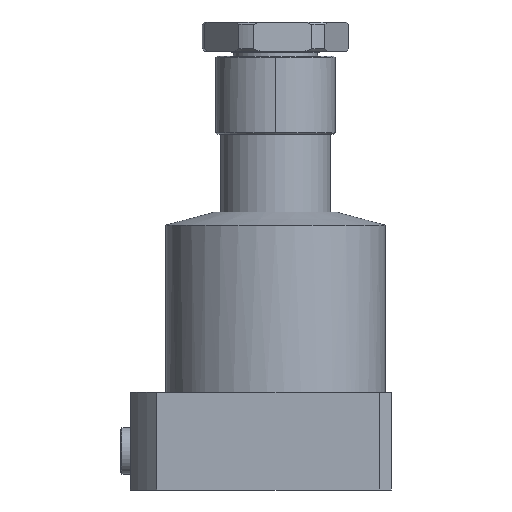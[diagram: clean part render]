
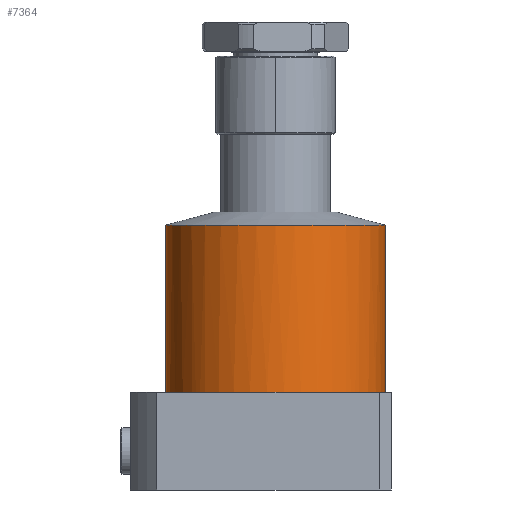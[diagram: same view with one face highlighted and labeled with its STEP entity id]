
A CAD part, front view. The second image highlights one B-rep face of the part: STEP entity #7364.
In plain terms, the highlighted cylindrical face has radius 45 mm (diameter 90 mm), a partial arc.
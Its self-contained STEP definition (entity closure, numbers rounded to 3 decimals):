
#500 = EDGE_CURVE ( 'NONE', #3720, #3303, #15677, .T. ) ;
#531 = ORIENTED_EDGE ( 'NONE', *, *, #15286, .T. ) ;
#578 = CIRCLE ( 'NONE', #17407, 45. ) ;
#1398 = DIRECTION ( 'NONE',  ( -1., 0., 0. ) ) ;
#2283 = VERTEX_POINT ( 'NONE', #16865 ) ;
#2360 = CARTESIAN_POINT ( 'NONE',  ( 0., 0., 40. ) ) ;
#2472 = EDGE_CURVE ( 'NONE', #3303, #3917, #7684, .T. ) ;
#3303 = VERTEX_POINT ( 'NONE', #14108 ) ;
#3616 = DIRECTION ( 'NONE',  ( 0., 0., -1. ) ) ;
#3720 = VERTEX_POINT ( 'NONE', #7086 ) ;
#3768 = DIRECTION ( 'NONE',  ( -1., 0., 0. ) ) ;
#3775 = EDGE_LOOP ( 'NONE', ( #9704, #5556, #531, #5861, #15189, #13859, #8111, #5908 ) ) ;
#3821 = CIRCLE ( 'NONE', #17571, 45. ) ;
#3917 = VERTEX_POINT ( 'NONE', #4485 ) ;
#4485 = CARTESIAN_POINT ( 'NONE',  ( 29.069, -34.351, 40. ) ) ;
#4795 = CARTESIAN_POINT ( 'NONE',  ( -29.069, -34.351, 40. ) ) ;
#5009 = CYLINDRICAL_SURFACE ( 'NONE', #12800, 45. ) ;
#5347 = DIRECTION ( 'NONE',  ( 0., 0., -1. ) ) ;
#5476 = FACE_OUTER_BOUND ( 'NONE', #3775, .T. ) ;
#5540 = CARTESIAN_POINT ( 'NONE',  ( 45., 0., 114. ) ) ;
#5556 = ORIENTED_EDGE ( 'NONE', *, *, #17160, .T. ) ;
#5861 = ORIENTED_EDGE ( 'NONE', *, *, #10608, .F. ) ;
#5908 = ORIENTED_EDGE ( 'NONE', *, *, #500, .F. ) ;
#5917 = CARTESIAN_POINT ( 'NONE',  ( -45., 0., 108.641 ) ) ;
#6001 = DIRECTION ( 'NONE',  ( 0., 0., -1. ) ) ;
#6586 = DIRECTION ( 'NONE',  ( 0., 0., -1. ) ) ;
#6845 = CARTESIAN_POINT ( 'NONE',  ( 0., 0., 108.641 ) ) ;
#6925 = LINE ( 'NONE', #12326, #10201 ) ;
#7086 = CARTESIAN_POINT ( 'NONE',  ( 45., 0., 40. ) ) ;
#7364 = ADVANCED_FACE ( 'NONE', ( #5476 ), #5009, .T. ) ;
#7402 = CARTESIAN_POINT ( 'NONE',  ( 0., 0., 114. ) ) ;
#7582 = EDGE_CURVE ( 'NONE', #10312, #8358, #10288, .T. ) ;
#7684 = CIRCLE ( 'NONE', #17379, 45. ) ;
#8111 = ORIENTED_EDGE ( 'NONE', *, *, #2472, .F. ) ;
#8243 = DIRECTION ( 'NONE',  ( -1., 0., 0. ) ) ;
#8358 = VERTEX_POINT ( 'NONE', #16889 ) ;
#9039 = EDGE_CURVE ( 'NONE', #3917, #10312, #578, .T. ) ;
#9150 = VECTOR ( 'NONE', #18227, 1000. ) ;
#9194 = EDGE_CURVE ( 'NONE', #2283, #3720, #12911, .T. ) ;
#9618 = CIRCLE ( 'NONE', #14451, 45. ) ;
#9704 = ORIENTED_EDGE ( 'NONE', *, *, #9194, .F. ) ;
#9824 = DIRECTION ( 'NONE',  ( 0., 0., -1. ) ) ;
#10201 = VECTOR ( 'NONE', #10913, 1000. ) ;
#10288 = CIRCLE ( 'NONE', #17514, 45. ) ;
#10312 = VERTEX_POINT ( 'NONE', #4795 ) ;
#10608 = EDGE_CURVE ( 'NONE', #8358, #13335, #9618, .T. ) ;
#10913 = DIRECTION ( 'NONE',  ( 0., 0., -1. ) ) ;
#11207 = VERTEX_POINT ( 'NONE', #5917 ) ;
#11595 = DIRECTION ( 'NONE',  ( -1., 0., 0. ) ) ;
#12054 = CARTESIAN_POINT ( 'NONE',  ( 0., 0., 40. ) ) ;
#12210 = DIRECTION ( 'NONE',  ( 0., 0., -1. ) ) ;
#12326 = CARTESIAN_POINT ( 'NONE',  ( -45., 0., 114. ) ) ;
#12800 = AXIS2_PLACEMENT_3D ( 'NONE', #7402, #6001, #11595 ) ;
#12911 = LINE ( 'NONE', #5540, #9150 ) ;
#13335 = VERTEX_POINT ( 'NONE', #18153 ) ;
#13471 = DIRECTION ( 'NONE',  ( -1., 0., 0. ) ) ;
#13773 = CARTESIAN_POINT ( 'NONE',  ( 0., 0., 40. ) ) ;
#13859 = ORIENTED_EDGE ( 'NONE', *, *, #9039, .F. ) ;
#14068 = AXIS2_PLACEMENT_3D ( 'NONE', #12054, #3616, #13471 ) ;
#14108 = CARTESIAN_POINT ( 'NONE',  ( 34.351, -29.069, 40. ) ) ;
#14451 = AXIS2_PLACEMENT_3D ( 'NONE', #18269, #9824, #1398 ) ;
#15018 = CARTESIAN_POINT ( 'NONE',  ( 0., 0., 40. ) ) ;
#15189 = ORIENTED_EDGE ( 'NONE', *, *, #7582, .F. ) ;
#15199 = DIRECTION ( 'NONE',  ( -1., 0., 0. ) ) ;
#15286 = EDGE_CURVE ( 'NONE', #11207, #13335, #6925, .T. ) ;
#15677 = CIRCLE ( 'NONE', #14068, 45. ) ;
#16436 = DIRECTION ( 'NONE',  ( -1., 0., 0. ) ) ;
#16695 = DIRECTION ( 'NONE',  ( 0., 0., -1. ) ) ;
#16865 = CARTESIAN_POINT ( 'NONE',  ( 45., 0., 108.641 ) ) ;
#16889 = CARTESIAN_POINT ( 'NONE',  ( -34.351, -29.069, 40. ) ) ;
#17160 = EDGE_CURVE ( 'NONE', #2283, #11207, #3821, .T. ) ;
#17379 = AXIS2_PLACEMENT_3D ( 'NONE', #13773, #5347, #15199 ) ;
#17407 = AXIS2_PLACEMENT_3D ( 'NONE', #15018, #6586, #16436 ) ;
#17514 = AXIS2_PLACEMENT_3D ( 'NONE', #2360, #12210, #3768 ) ;
#17571 = AXIS2_PLACEMENT_3D ( 'NONE', #6845, #16695, #8243 ) ;
#18153 = CARTESIAN_POINT ( 'NONE',  ( -45., 0., 40. ) ) ;
#18227 = DIRECTION ( 'NONE',  ( 0., 0., -1. ) ) ;
#18269 = CARTESIAN_POINT ( 'NONE',  ( 0., 0., 40. ) ) ;
